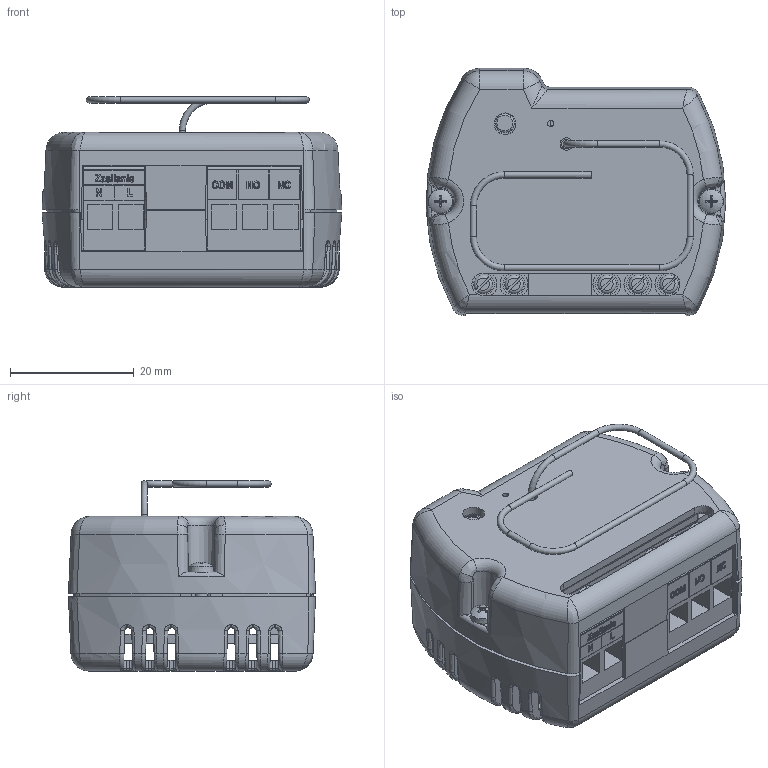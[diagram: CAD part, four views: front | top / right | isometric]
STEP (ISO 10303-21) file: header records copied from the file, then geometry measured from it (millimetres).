
FILE_DESCRIPTION(/* description */ (''),/* implementation_level */ '2;1');
FILE_NAME(/* name */ 'PPS-01.step',/* time_stamp */ '2026-02-06T11:48:24+01:00',/* author */ (''),/* organization */ (''),/* preprocessor_version */ 'ST-DEVELOPER v20.1',/* originating_system */ 'Autodesk Translation Framework v14.24.0.0',/* authorisation */ '');
FILE_SCHEMA (('AUTOMOTIVE_DESIGN { 1 0 10303 214 3 1 1 }'));
Products named in the file (135): Przekaźnik do puszki1; Plytka dolna1; Łaczka; SWITCH 6X6X3,2; Gora_cewka3; Spod_cewka3; ST-1011_2_1_E; PCB Component; Board; RFM22B_S1_D; Body3; Body4; Body5; Body6; Body7; Body8; Body9; Body10; Body11; Body12; Body13; Body14; Body15; Body16; Body17; Body18; Body19; Body20; Body21; Body22; Body23; Body24; Body25; Body26; Body27; Body28; Body29; Body30; Body31; Body32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
Assembly tree (149 placements, depth 5):
  Przekaźnik do puszki1
    Plytka dolna1
    Łaczka
    SWITCH 6X6X3,2
    Gora_cewka3
    Spod_cewka3
    ST-1011_2_1_E
      PCB Component
        Board
        100n  x4
        10k  x3
        RFM22B_S1_D
          Body3
          Body4
          Body5
          Body6
          Body7
          Body8
          Body9
          Body10
          Body11
          Body12
          Body13
          Body14
          Body15
          Body16
          Body17
          Body18
          Body19
          Body20
          Body21
          Body22
          Body23
          Body24
          Body25
          Body26
          Body27
          Body28
          Body29
          Body30
          Body31
          Body32
          Body33
          Body34
          Body35
          Body36
          Body37
          Body38
          Body39
          Body40
          Body41
          Body42
          Body43
          Body44
          Body45
          Body46
          Body47
          Body48
          Body49
          Body50
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Bounding box: 48.38 x 39.9 x 30.74 mm (x, y, z)
Volume: 17318.2 mm3; surface area: 23178.9 mm2
Topology: 155 solids, 156 shells, 4437 faces, 11018 edges, 6855 vertices
Faces by surface type: plane 2470, cylinder 1012, sphere 382, bspline 335, cone 121, torus 117
Full cylindrical faces by diameter (mm): 0.4 x4, 0.406 x11, 0.5 x74, 0.6 x1, 0.9 x6, 1 x15, 1.5 x1, 2.2 x2, 3.1 x1, 3.5 x1, 3.6 x5, 4.5 x5
Entity records: 140395 total; most frequent: CARTESIAN_POINT 33465, ORIENTED_EDGE 21270, DIRECTION 21124, EDGE_CURVE 10637, LINE 7102, VECTOR 7102, AXIS2_PLACEMENT_3D 7011, VERTEX_POINT 6679
